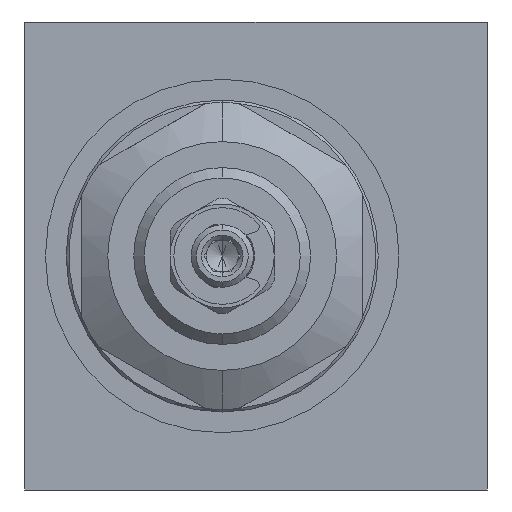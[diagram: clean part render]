
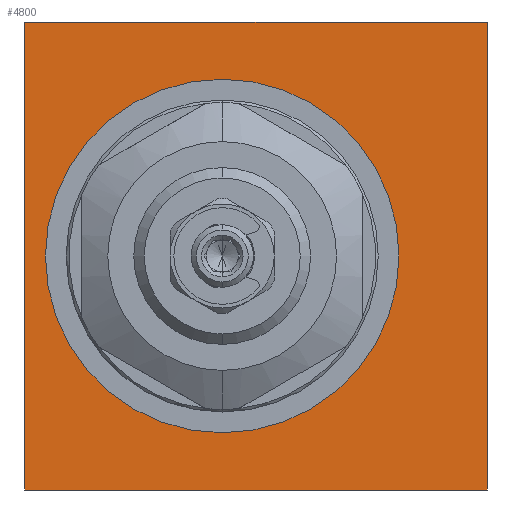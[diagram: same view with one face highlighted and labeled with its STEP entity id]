
A CAD part, left-side view. The second image highlights one B-rep face of the part: STEP entity #4800.
In plain terms, the highlighted planar face has unit normal (-1, 0, 0).
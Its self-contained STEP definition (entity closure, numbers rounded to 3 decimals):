
#32 = CIRCLE ( 'NONE', #214, 17. ) ;
#187 = CARTESIAN_POINT ( 'NONE',  ( 0., -22.25, 22.5 ) ) ;
#214 = AXIS2_PLACEMENT_3D ( 'NONE', #14491, #14487, #14473 ) ;
#235 = DIRECTION ( 'NONE',  ( 0., -1., 0. ) ) ;
#405 = DIRECTION ( 'NONE',  ( -1., 0., 0. ) ) ;
#555 = DIRECTION ( 'NONE',  ( 0., 0., 1. ) ) ;
#572 = CARTESIAN_POINT ( 'NONE',  ( 0., 22.25, -22.5 ) ) ;
#583 = ORIENTED_EDGE ( 'NONE', *, *, #4887, .F. ) ;
#1236 = ORIENTED_EDGE ( 'NONE', *, *, #4780, .F. ) ;
#1418 = AXIS2_PLACEMENT_3D ( 'NONE', #572, #405, #555 ) ;
#1442 = PLANE ( 'NONE',  #1418 ) ;
#1609 = DIRECTION ( 'NONE',  ( 0., 1., 0. ) ) ;
#1842 = CARTESIAN_POINT ( 'NONE',  ( 0., -22.25, 22.5 ) ) ;
#2004 = CARTESIAN_POINT ( 'NONE',  ( 0., -22.25, -22.5 ) ) ;
#2258 = CARTESIAN_POINT ( 'NONE',  ( 0., -22.25, -22.5 ) ) ;
#3324 = DIRECTION ( 'NONE',  ( 0., 0., 1. ) ) ;
#3338 = CARTESIAN_POINT ( 'NONE',  ( 0., 3.25, 0. ) ) ;
#3481 = VERTEX_POINT ( 'NONE', #2004 ) ;
#4150 = EDGE_CURVE ( 'NONE', #10457, #11721, #6954, .T. ) ;
#4780 = EDGE_CURVE ( 'NONE', #3481, #12305, #7599, .T. ) ;
#4800 = ADVANCED_FACE ( 'NONE', ( #7684, #7497 ), #1442, .T. ) ;
#4868 = EDGE_CURVE ( 'NONE', #11721, #3481, #6547, .T. ) ;
#4887 = EDGE_CURVE ( 'NONE', #12305, #10457, #6083, .T. ) ;
#4940 = EDGE_CURVE ( 'NONE', #15790, #10488, #32, .T. ) ;
#5141 = ORIENTED_EDGE ( 'NONE', *, *, #4150, .F. ) ;
#5331 = CARTESIAN_POINT ( 'NONE',  ( 0., 3.25, -17. ) ) ;
#5346 = EDGE_LOOP ( 'NONE', ( #11798, #9413 ) ) ;
#5794 = CARTESIAN_POINT ( 'NONE',  ( 0., 22.25, 22.5 ) ) ;
#5997 = VECTOR ( 'NONE', #15263, 1000. ) ;
#6083 = LINE ( 'NONE', #15240, #5997 ) ;
#6547 = LINE ( 'NONE', #15576, #6591 ) ;
#6591 = VECTOR ( 'NONE', #15594, 1000. ) ;
#6954 = LINE ( 'NONE', #187, #11428 ) ;
#7497 = FACE_BOUND ( 'NONE', #5346, .T. ) ;
#7575 = VECTOR ( 'NONE', #1609, 1000. ) ;
#7599 = LINE ( 'NONE', #2258, #7575 ) ;
#7684 = FACE_OUTER_BOUND ( 'NONE', #9446, .T. ) ;
#9349 = CARTESIAN_POINT ( 'NONE',  ( 0., 22.25, -22.5 ) ) ;
#9413 = ORIENTED_EDGE ( 'NONE', *, *, #12719, .F. ) ;
#9423 = ORIENTED_EDGE ( 'NONE', *, *, #4868, .F. ) ;
#9446 = EDGE_LOOP ( 'NONE', ( #1236, #9423, #5141, #583 ) ) ;
#9453 = CIRCLE ( 'NONE', #13190, 17. ) ;
#10457 = VERTEX_POINT ( 'NONE', #5794 ) ;
#10488 = VERTEX_POINT ( 'NONE', #5331 ) ;
#11428 = VECTOR ( 'NONE', #235, 1000. ) ;
#11721 = VERTEX_POINT ( 'NONE', #1842 ) ;
#11798 = ORIENTED_EDGE ( 'NONE', *, *, #4940, .F. ) ;
#12305 = VERTEX_POINT ( 'NONE', #9349 ) ;
#12719 = EDGE_CURVE ( 'NONE', #10488, #15790, #9453, .T. ) ;
#12779 = DIRECTION ( 'NONE',  ( -1., 0., 0. ) ) ;
#13190 = AXIS2_PLACEMENT_3D ( 'NONE', #3338, #12779, #3324 ) ;
#13501 = CARTESIAN_POINT ( 'NONE',  ( 0., 3.25, 17. ) ) ;
#14473 = DIRECTION ( 'NONE',  ( 0., 0., 1. ) ) ;
#14487 = DIRECTION ( 'NONE',  ( -1., 0., 0. ) ) ;
#14491 = CARTESIAN_POINT ( 'NONE',  ( 0., 3.25, 0. ) ) ;
#15240 = CARTESIAN_POINT ( 'NONE',  ( 0., 22.25, 22.5 ) ) ;
#15263 = DIRECTION ( 'NONE',  ( 0., 0., 1. ) ) ;
#15576 = CARTESIAN_POINT ( 'NONE',  ( 0., -22.25, 22.5 ) ) ;
#15594 = DIRECTION ( 'NONE',  ( 0., 0., -1. ) ) ;
#15790 = VERTEX_POINT ( 'NONE', #13501 ) ;
